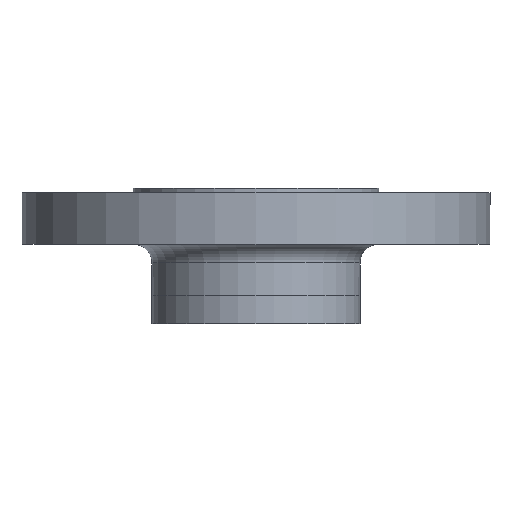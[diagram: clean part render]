
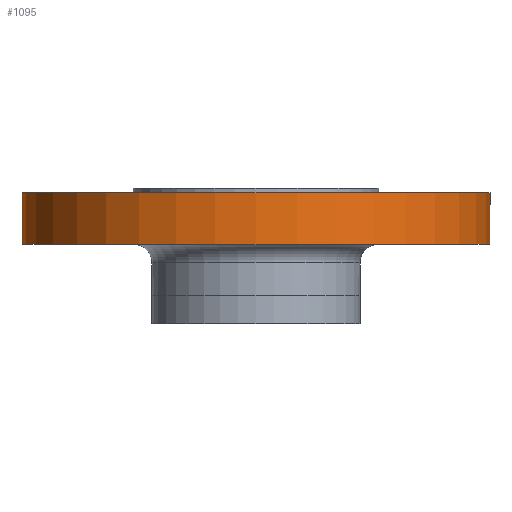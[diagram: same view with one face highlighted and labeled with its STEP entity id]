
A CAD part, front view. The second image highlights one B-rep face of the part: STEP entity #1095.
In plain terms, the highlighted cylindrical face has radius 100 mm (diameter 200 mm), a partial arc.
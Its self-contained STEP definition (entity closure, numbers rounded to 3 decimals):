
#5 = CARTESIAN_POINT ( 'NONE',  ( -100., 0., -24. ) ) ;
#38 = EDGE_CURVE ( 'NONE', #885, #916, #817, .T. ) ;
#41 = DIRECTION ( 'NONE',  ( 0., 0., 1. ) ) ;
#42 = CARTESIAN_POINT ( 'NONE',  ( 100., 0., -68. ) ) ;
#43 = LINE ( 'NONE', #42, #1040 ) ;
#46 = DIRECTION ( 'NONE',  ( 1., 0., 0. ) ) ;
#47 = DIRECTION ( 'NONE',  ( 0., 0., 1. ) ) ;
#48 = CARTESIAN_POINT ( 'NONE',  ( 0., 0., -68. ) ) ;
#51 = DIRECTION ( 'NONE',  ( 0., 0., 1. ) ) ;
#52 = CARTESIAN_POINT ( 'NONE',  ( -100., 0., -68. ) ) ;
#53 = LINE ( 'NONE', #52, #907 ) ;
#56 = CARTESIAN_POINT ( 'NONE',  ( 100., 0., -24. ) ) ;
#57 = DIRECTION ( 'NONE',  ( -1., 0., 0. ) ) ;
#58 = DIRECTION ( 'NONE',  ( 0., 0., -1. ) ) ;
#59 = CARTESIAN_POINT ( 'NONE',  ( 0., 0., -24. ) ) ;
#235 = CARTESIAN_POINT ( 'NONE',  ( -100., 0., -2. ) ) ;
#251 = CARTESIAN_POINT ( 'NONE',  ( 100., 0., -2. ) ) ;
#676 = AXIS2_PLACEMENT_3D ( 'NONE', #947, #948, #949 ) ;
#737 = FACE_OUTER_BOUND ( 'NONE', #911, .T. ) ;
#739 = CYLINDRICAL_SURFACE ( 'NONE', #978, 100. ) ;
#817 = CIRCLE ( 'NONE', #676, 100. ) ;
#878 = CIRCLE ( 'NONE', #912, 100. ) ;
#885 = VERTEX_POINT ( 'NONE', #251 ) ;
#907 = VECTOR ( 'NONE', #51, 1000. ) ;
#911 = EDGE_LOOP ( 'NONE', ( #1103, #1104, #1106, #1107 ) ) ;
#912 = AXIS2_PLACEMENT_3D ( 'NONE', #59, #58, #57 ) ;
#916 = VERTEX_POINT ( 'NONE', #235 ) ;
#947 = CARTESIAN_POINT ( 'NONE',  ( 0., 0., -2. ) ) ;
#948 = DIRECTION ( 'NONE',  ( 0., 0., -1. ) ) ;
#949 = DIRECTION ( 'NONE',  ( -1., 0., 0. ) ) ;
#978 = AXIS2_PLACEMENT_3D ( 'NONE', #48, #47, #46 ) ;
#1040 = VECTOR ( 'NONE', #41, 1000. ) ;
#1066 = EDGE_CURVE ( 'NONE', #1077, #1168, #878, .T. ) ;
#1077 = VERTEX_POINT ( 'NONE', #56 ) ;
#1085 = EDGE_CURVE ( 'NONE', #1168, #916, #53, .T. ) ;
#1095 = ADVANCED_FACE ( 'NONE', ( #737 ), #739, .T. ) ;
#1103 = ORIENTED_EDGE ( 'NONE', *, *, #1085, .F. ) ;
#1104 = ORIENTED_EDGE ( 'NONE', *, *, #1066, .F. ) ;
#1106 = ORIENTED_EDGE ( 'NONE', *, *, #1112, .T. ) ;
#1107 = ORIENTED_EDGE ( 'NONE', *, *, #38, .T. ) ;
#1112 = EDGE_CURVE ( 'NONE', #1077, #885, #43, .T. ) ;
#1168 = VERTEX_POINT ( 'NONE', #5 ) ;
